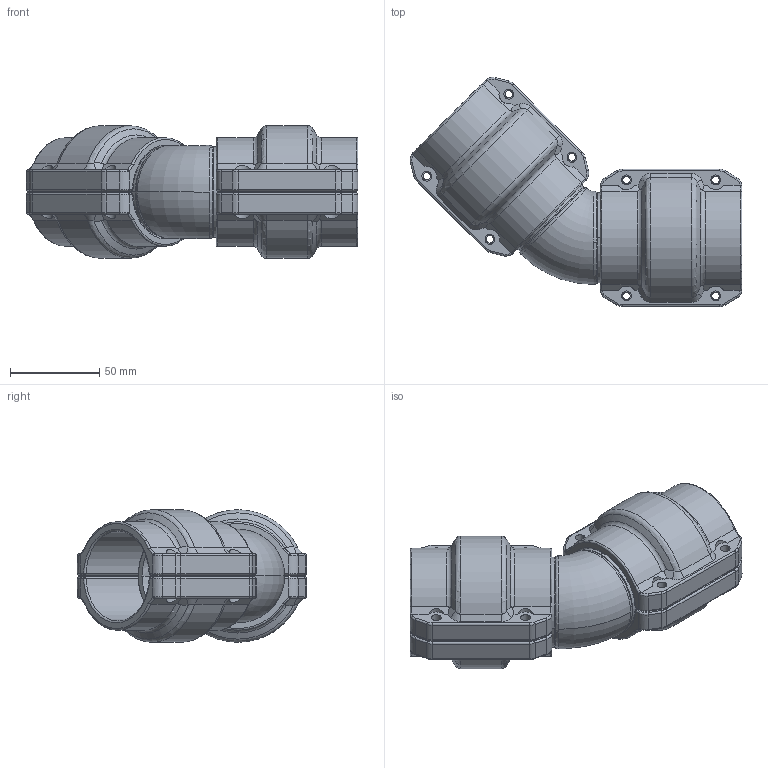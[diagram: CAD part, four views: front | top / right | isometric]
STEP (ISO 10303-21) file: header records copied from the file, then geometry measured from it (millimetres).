
FILE_DESCRIPTION((''),'2;1');
FILE_NAME('2015500499_ASM_8_ASM','2017-05-15T',('Administrator'),(''),'PRO/ENGINEER BY PARAMETRIC TECHNOLOGY CORPORATION, 2009360','PRO/ENGINEER BY PARAMETRIC TECHNOLOGY CORPORATION, 2009360','');
FILE_SCHEMA(('AUTOMOTIVE_DESIGN_CC2 { 1 2 10303 214 -1 1 5 2 }'));
Length unit declared in the file: millimetre
Products named in the file (5): 2015500400_5; 201550020001_1; 201550020000_1; 2015500200_ASM_1_ASM; 2015500499_ASM_8_ASM
Assembly tree (5 placements, depth 3):
  2015500499_ASM_8_ASM
    2015500400_5
    2015500200_ASM_1_ASM  x2
      201550020001_1
      201550020000_1
Bounding box: 186.07 x 128.44 x 74.3 mm (x, y, z)
Volume: 329040.3 mm3; surface area: 109252.3 mm2
Topology: 5 solids, 5 shells, 455 faces, 1216 edges, 755 vertices
Faces by surface type: cylinder 190, torus 110, plane 74, bspline 49, cone 16, sphere 16
Entity records: 11465 total; most frequent: CARTESIAN_POINT 3304, ORIENTED_EDGE 1304, DIRECTION 1302, PRESENTATION_STYLE_ASSIGNMENT 655, STYLED_ITEM 655, CURVE_STYLE 652, EDGE_CURVE 652, AXIS2_PLACEMENT_3D 553
